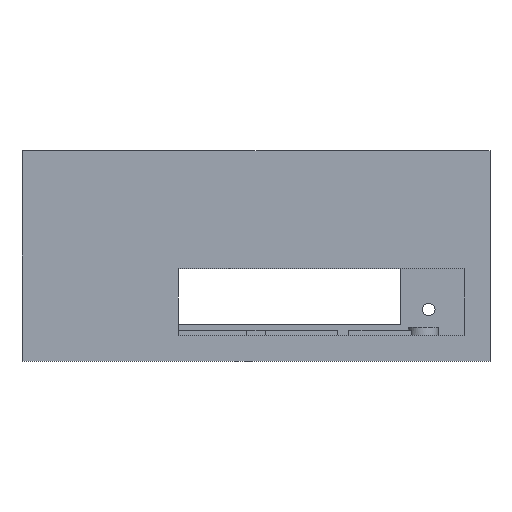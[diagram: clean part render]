
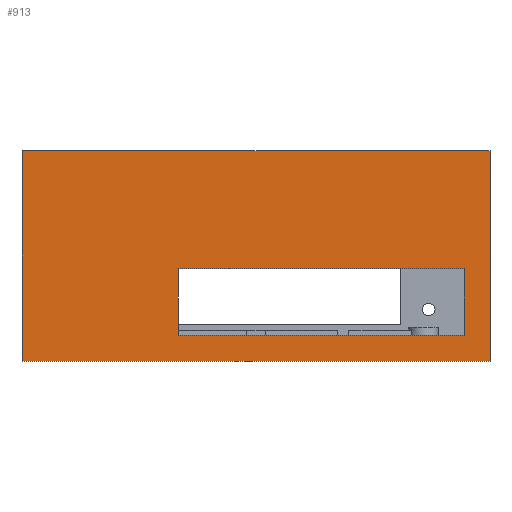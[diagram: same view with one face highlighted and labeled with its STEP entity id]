
A CAD part, front view. The second image highlights one B-rep face of the part: STEP entity #913.
In plain terms, the highlighted planar face has unit normal (0, -1, 0).
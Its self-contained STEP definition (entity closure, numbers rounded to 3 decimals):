
#21 = EDGE_CURVE('',#22,#24,#26,.T.);
#22 = VERTEX_POINT('',#23);
#23 = CARTESIAN_POINT('',(0.,0.,0.));
#24 = VERTEX_POINT('',#25);
#25 = CARTESIAN_POINT('',(0.,0.,56.8));
#26 = SURFACE_CURVE('',#27,(#31,#43),.PCURVE_S1.);
#27 = LINE('',#28,#29);
#28 = CARTESIAN_POINT('',(0.,0.,0.));
#29 = VECTOR('',#30,1.);
#30 = DIRECTION('',(0.,0.,1.));
#31 = PCURVE('',#32,#37);
#32 = PLANE('',#33);
#33 = AXIS2_PLACEMENT_3D('',#34,#35,#36);
#34 = CARTESIAN_POINT('',(0.,0.,0.));
#35 = DIRECTION('',(1.,0.,0.));
#36 = DIRECTION('',(0.,0.,1.));
#37 = DEFINITIONAL_REPRESENTATION('',(#38),#42);
#38 = LINE('',#39,#40);
#39 = CARTESIAN_POINT('',(0.,0.));
#40 = VECTOR('',#41,1.);
#41 = DIRECTION('',(1.,0.));
#42 = ( GEOMETRIC_REPRESENTATION_CONTEXT(2) 
PARAMETRIC_REPRESENTATION_CONTEXT() REPRESENTATION_CONTEXT('2D SPACE',''
  ) );
#43 = PCURVE('',#44,#49);
#44 = PLANE('',#45);
#45 = AXIS2_PLACEMENT_3D('',#46,#47,#48);
#46 = CARTESIAN_POINT('',(0.,0.,0.));
#47 = DIRECTION('',(0.,1.,0.));
#48 = DIRECTION('',(0.,0.,1.));
#49 = DEFINITIONAL_REPRESENTATION('',(#50),#54);
#50 = LINE('',#51,#52);
#51 = CARTESIAN_POINT('',(0.,0.));
#52 = VECTOR('',#53,1.);
#53 = DIRECTION('',(1.,0.));
#54 = ( GEOMETRIC_REPRESENTATION_CONTEXT(2) 
PARAMETRIC_REPRESENTATION_CONTEXT() REPRESENTATION_CONTEXT('2D SPACE',''
  ) );
#72 = PLANE('',#73);
#73 = AXIS2_PLACEMENT_3D('',#74,#75,#76);
#74 = CARTESIAN_POINT('',(0.,0.,0.));
#75 = DIRECTION('',(0.,0.,1.));
#76 = DIRECTION('',(1.,0.,0.));
#126 = PLANE('',#127);
#127 = AXIS2_PLACEMENT_3D('',#128,#129,#130);
#128 = CARTESIAN_POINT('',(0.,0.,56.8));
#129 = DIRECTION('',(0.,0.,1.));
#130 = DIRECTION('',(1.,0.,0.));
#913 = ADVANCED_FACE('',(#914,#989),#44,.F.);
#914 = FACE_BOUND('',#915,.F.);
#915 = EDGE_LOOP('',(#916,#939,#940,#963));
#916 = ORIENTED_EDGE('',*,*,#917,.F.);
#917 = EDGE_CURVE('',#22,#918,#920,.T.);
#918 = VERTEX_POINT('',#919);
#919 = CARTESIAN_POINT('',(126.,0.,0.));
#920 = SURFACE_CURVE('',#921,(#925,#932),.PCURVE_S1.);
#921 = LINE('',#922,#923);
#922 = CARTESIAN_POINT('',(0.,0.,0.));
#923 = VECTOR('',#924,1.);
#924 = DIRECTION('',(1.,0.,0.));
#925 = PCURVE('',#44,#926);
#926 = DEFINITIONAL_REPRESENTATION('',(#927),#931);
#927 = LINE('',#928,#929);
#928 = CARTESIAN_POINT('',(0.,0.));
#929 = VECTOR('',#930,1.);
#930 = DIRECTION('',(0.,1.));
#931 = ( GEOMETRIC_REPRESENTATION_CONTEXT(2) 
PARAMETRIC_REPRESENTATION_CONTEXT() REPRESENTATION_CONTEXT('2D SPACE',''
  ) );
#932 = PCURVE('',#72,#933);
#933 = DEFINITIONAL_REPRESENTATION('',(#934),#938);
#934 = LINE('',#935,#936);
#935 = CARTESIAN_POINT('',(0.,0.));
#936 = VECTOR('',#937,1.);
#937 = DIRECTION('',(1.,0.));
#938 = ( GEOMETRIC_REPRESENTATION_CONTEXT(2) 
PARAMETRIC_REPRESENTATION_CONTEXT() REPRESENTATION_CONTEXT('2D SPACE',''
  ) );
#939 = ORIENTED_EDGE('',*,*,#21,.T.);
#940 = ORIENTED_EDGE('',*,*,#941,.F.);
#941 = EDGE_CURVE('',#942,#24,#944,.T.);
#942 = VERTEX_POINT('',#943);
#943 = CARTESIAN_POINT('',(126.,0.,56.8));
#944 = SURFACE_CURVE('',#945,(#949,#956),.PCURVE_S1.);
#945 = LINE('',#946,#947);
#946 = CARTESIAN_POINT('',(126.,0.,56.8));
#947 = VECTOR('',#948,1.);
#948 = DIRECTION('',(-1.,0.,0.));
#949 = PCURVE('',#44,#950);
#950 = DEFINITIONAL_REPRESENTATION('',(#951),#955);
#951 = LINE('',#952,#953);
#952 = CARTESIAN_POINT('',(56.8,126.));
#953 = VECTOR('',#954,1.);
#954 = DIRECTION('',(0.,-1.));
#955 = ( GEOMETRIC_REPRESENTATION_CONTEXT(2) 
PARAMETRIC_REPRESENTATION_CONTEXT() REPRESENTATION_CONTEXT('2D SPACE',''
  ) );
#956 = PCURVE('',#126,#957);
#957 = DEFINITIONAL_REPRESENTATION('',(#958),#962);
#958 = LINE('',#959,#960);
#959 = CARTESIAN_POINT('',(126.,0.));
#960 = VECTOR('',#961,1.);
#961 = DIRECTION('',(-1.,0.));
#962 = ( GEOMETRIC_REPRESENTATION_CONTEXT(2) 
PARAMETRIC_REPRESENTATION_CONTEXT() REPRESENTATION_CONTEXT('2D SPACE',''
  ) );
#963 = ORIENTED_EDGE('',*,*,#964,.F.);
#964 = EDGE_CURVE('',#918,#942,#965,.T.);
#965 = SURFACE_CURVE('',#966,(#970,#977),.PCURVE_S1.);
#966 = LINE('',#967,#968);
#967 = CARTESIAN_POINT('',(126.,0.,0.));
#968 = VECTOR('',#969,1.);
#969 = DIRECTION('',(0.,0.,1.));
#970 = PCURVE('',#44,#971);
#971 = DEFINITIONAL_REPRESENTATION('',(#972),#976);
#972 = LINE('',#973,#974);
#973 = CARTESIAN_POINT('',(0.,126.));
#974 = VECTOR('',#975,1.);
#975 = DIRECTION('',(1.,0.));
#976 = ( GEOMETRIC_REPRESENTATION_CONTEXT(2) 
PARAMETRIC_REPRESENTATION_CONTEXT() REPRESENTATION_CONTEXT('2D SPACE',''
  ) );
#977 = PCURVE('',#978,#983);
#978 = PLANE('',#979);
#979 = AXIS2_PLACEMENT_3D('',#980,#981,#982);
#980 = CARTESIAN_POINT('',(126.,0.,0.));
#981 = DIRECTION('',(1.,0.,0.));
#982 = DIRECTION('',(0.,0.,1.));
#983 = DEFINITIONAL_REPRESENTATION('',(#984),#988);
#984 = LINE('',#985,#986);
#985 = CARTESIAN_POINT('',(0.,0.));
#986 = VECTOR('',#987,1.);
#987 = DIRECTION('',(1.,0.));
#988 = ( GEOMETRIC_REPRESENTATION_CONTEXT(2) 
PARAMETRIC_REPRESENTATION_CONTEXT() REPRESENTATION_CONTEXT('2D SPACE',''
  ) );
#989 = FACE_BOUND('',#990,.F.);
#990 = EDGE_LOOP('',(#991,#1019,#1045,#1071));
#991 = ORIENTED_EDGE('',*,*,#992,.F.);
#992 = EDGE_CURVE('',#993,#995,#997,.T.);
#993 = VERTEX_POINT('',#994);
#994 = CARTESIAN_POINT('',(42.,0.,25.));
#995 = VERTEX_POINT('',#996);
#996 = CARTESIAN_POINT('',(119.,0.,25.));
#997 = SURFACE_CURVE('',#998,(#1002,#1008),.PCURVE_S1.);
#998 = LINE('',#999,#1000);
#999 = CARTESIAN_POINT('',(21.,0.,25.));
#1000 = VECTOR('',#1001,1.);
#1001 = DIRECTION('',(1.,0.,0.));
#1002 = PCURVE('',#44,#1003);
#1003 = DEFINITIONAL_REPRESENTATION('',(#1004),#1007);
#1004 = B_SPLINE_CURVE_WITH_KNOTS('',1,(#1005,#1006),.UNSPECIFIED.,.F.,
  .F.,(2,2),(21.,98.),.PIECEWISE_BEZIER_KNOTS.);
#1005 = CARTESIAN_POINT('',(25.,42.));
#1006 = CARTESIAN_POINT('',(25.,119.));
#1007 = ( GEOMETRIC_REPRESENTATION_CONTEXT(2) 
PARAMETRIC_REPRESENTATION_CONTEXT() REPRESENTATION_CONTEXT('2D SPACE',''
  ) );
#1008 = PCURVE('',#1009,#1014);
#1009 = PLANE('',#1010);
#1010 = AXIS2_PLACEMENT_3D('',#1011,#1012,#1013);
#1011 = CARTESIAN_POINT('',(42.,-1.,25.));
#1012 = DIRECTION('',(0.,0.,1.));
#1013 = DIRECTION('',(1.,0.,0.));
#1014 = DEFINITIONAL_REPRESENTATION('',(#1015),#1018);
#1015 = B_SPLINE_CURVE_WITH_KNOTS('',1,(#1016,#1017),.UNSPECIFIED.,.F.,
  .F.,(2,2),(21.,98.),.PIECEWISE_BEZIER_KNOTS.);
#1016 = CARTESIAN_POINT('',(0.,1.));
#1017 = CARTESIAN_POINT('',(77.,1.));
#1018 = ( GEOMETRIC_REPRESENTATION_CONTEXT(2) 
PARAMETRIC_REPRESENTATION_CONTEXT() REPRESENTATION_CONTEXT('2D SPACE',''
  ) );
#1019 = ORIENTED_EDGE('',*,*,#1020,.T.);
#1020 = EDGE_CURVE('',#993,#1021,#1023,.T.);
#1021 = VERTEX_POINT('',#1022);
#1022 = CARTESIAN_POINT('',(42.,0.,7.));
#1023 = SURFACE_CURVE('',#1024,(#1028,#1034),.PCURVE_S1.);
#1024 = LINE('',#1025,#1026);
#1025 = CARTESIAN_POINT('',(42.,0.,3.5));
#1026 = VECTOR('',#1027,1.);
#1027 = DIRECTION('',(0.,0.,-1.));
#1028 = PCURVE('',#44,#1029);
#1029 = DEFINITIONAL_REPRESENTATION('',(#1030),#1033);
#1030 = B_SPLINE_CURVE_WITH_KNOTS('',1,(#1031,#1032),.UNSPECIFIED.,.F.,
  .F.,(2,2),(-21.5,-3.5),.PIECEWISE_BEZIER_KNOTS.);
#1031 = CARTESIAN_POINT('',(25.,42.));
#1032 = CARTESIAN_POINT('',(7.,42.));
#1033 = ( GEOMETRIC_REPRESENTATION_CONTEXT(2) 
PARAMETRIC_REPRESENTATION_CONTEXT() REPRESENTATION_CONTEXT('2D SPACE',''
  ) );
#1034 = PCURVE('',#1035,#1040);
#1035 = PLANE('',#1036);
#1036 = AXIS2_PLACEMENT_3D('',#1037,#1038,#1039);
#1037 = CARTESIAN_POINT('',(42.,-1.,7.));
#1038 = DIRECTION('',(1.,0.,0.));
#1039 = DIRECTION('',(0.,0.,1.));
#1040 = DEFINITIONAL_REPRESENTATION('',(#1041),#1044);
#1041 = B_SPLINE_CURVE_WITH_KNOTS('',1,(#1042,#1043),.UNSPECIFIED.,.F.,
  .F.,(2,2),(-21.5,-3.5),.PIECEWISE_BEZIER_KNOTS.);
#1042 = CARTESIAN_POINT('',(18.,-1.));
#1043 = CARTESIAN_POINT('',(0.,-1.));
#1044 = ( GEOMETRIC_REPRESENTATION_CONTEXT(2) 
PARAMETRIC_REPRESENTATION_CONTEXT() REPRESENTATION_CONTEXT('2D SPACE',''
  ) );
#1045 = ORIENTED_EDGE('',*,*,#1046,.T.);
#1046 = EDGE_CURVE('',#1021,#1047,#1049,.T.);
#1047 = VERTEX_POINT('',#1048);
#1048 = CARTESIAN_POINT('',(119.,0.,7.));
#1049 = SURFACE_CURVE('',#1050,(#1054,#1060),.PCURVE_S1.);
#1050 = LINE('',#1051,#1052);
#1051 = CARTESIAN_POINT('',(21.,0.,7.));
#1052 = VECTOR('',#1053,1.);
#1053 = DIRECTION('',(1.,0.,0.));
#1054 = PCURVE('',#44,#1055);
#1055 = DEFINITIONAL_REPRESENTATION('',(#1056),#1059);
#1056 = B_SPLINE_CURVE_WITH_KNOTS('',1,(#1057,#1058),.UNSPECIFIED.,.F.,
  .F.,(2,2),(21.,98.),.PIECEWISE_BEZIER_KNOTS.);
#1057 = CARTESIAN_POINT('',(7.,42.));
#1058 = CARTESIAN_POINT('',(7.,119.));
#1059 = ( GEOMETRIC_REPRESENTATION_CONTEXT(2) 
PARAMETRIC_REPRESENTATION_CONTEXT() REPRESENTATION_CONTEXT('2D SPACE',''
  ) );
#1060 = PCURVE('',#1061,#1066);
#1061 = PLANE('',#1062);
#1062 = AXIS2_PLACEMENT_3D('',#1063,#1064,#1065);
#1063 = CARTESIAN_POINT('',(42.,-1.,7.));
#1064 = DIRECTION('',(0.,0.,1.));
#1065 = DIRECTION('',(1.,0.,0.));
#1066 = DEFINITIONAL_REPRESENTATION('',(#1067),#1070);
#1067 = B_SPLINE_CURVE_WITH_KNOTS('',1,(#1068,#1069),.UNSPECIFIED.,.F.,
  .F.,(2,2),(21.,98.),.PIECEWISE_BEZIER_KNOTS.);
#1068 = CARTESIAN_POINT('',(0.,1.));
#1069 = CARTESIAN_POINT('',(77.,1.));
#1070 = ( GEOMETRIC_REPRESENTATION_CONTEXT(2) 
PARAMETRIC_REPRESENTATION_CONTEXT() REPRESENTATION_CONTEXT('2D SPACE',''
  ) );
#1071 = ORIENTED_EDGE('',*,*,#1072,.F.);
#1072 = EDGE_CURVE('',#995,#1047,#1073,.T.);
#1073 = SURFACE_CURVE('',#1074,(#1078,#1084),.PCURVE_S1.);
#1074 = LINE('',#1075,#1076);
#1075 = CARTESIAN_POINT('',(119.,0.,3.5));
#1076 = VECTOR('',#1077,1.);
#1077 = DIRECTION('',(0.,0.,-1.));
#1078 = PCURVE('',#44,#1079);
#1079 = DEFINITIONAL_REPRESENTATION('',(#1080),#1083);
#1080 = B_SPLINE_CURVE_WITH_KNOTS('',1,(#1081,#1082),.UNSPECIFIED.,.F.,
  .F.,(2,2),(-21.5,-3.5),.PIECEWISE_BEZIER_KNOTS.);
#1081 = CARTESIAN_POINT('',(25.,119.));
#1082 = CARTESIAN_POINT('',(7.,119.));
#1083 = ( GEOMETRIC_REPRESENTATION_CONTEXT(2) 
PARAMETRIC_REPRESENTATION_CONTEXT() REPRESENTATION_CONTEXT('2D SPACE',''
  ) );
#1084 = PCURVE('',#1085,#1090);
#1085 = PLANE('',#1086);
#1086 = AXIS2_PLACEMENT_3D('',#1087,#1088,#1089);
#1087 = CARTESIAN_POINT('',(119.,-1.,7.));
#1088 = DIRECTION('',(1.,0.,0.));
#1089 = DIRECTION('',(0.,0.,1.));
#1090 = DEFINITIONAL_REPRESENTATION('',(#1091),#1094);
#1091 = B_SPLINE_CURVE_WITH_KNOTS('',1,(#1092,#1093),.UNSPECIFIED.,.F.,
  .F.,(2,2),(-21.5,-3.5),.PIECEWISE_BEZIER_KNOTS.);
#1092 = CARTESIAN_POINT('',(18.,-1.));
#1093 = CARTESIAN_POINT('',(0.,-1.));
#1094 = ( GEOMETRIC_REPRESENTATION_CONTEXT(2) 
PARAMETRIC_REPRESENTATION_CONTEXT() REPRESENTATION_CONTEXT('2D SPACE',''
  ) );
